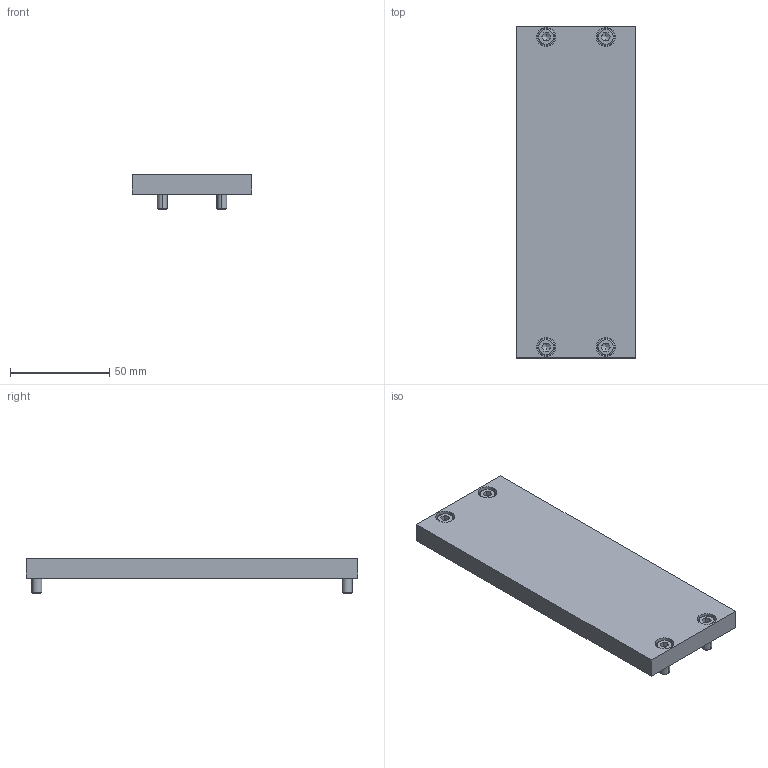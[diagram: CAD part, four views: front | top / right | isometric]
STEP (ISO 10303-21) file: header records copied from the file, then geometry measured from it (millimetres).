
FILE_DESCRIPTION((''),'2;1');
FILE_NAME('V:\CAD\Inventor-Stp\Linearelemente\Kugelbüchsenführungen\VE 25\Kopie von ivn\4000031.stp','2006-03-14T09:31:59',('is'),(''),'Autodesk Inventor 8','Autodesk Inventor 8','');
FILE_SCHEMA(('AUTOMOTIVE_DESIGN { 1 0 10303 214 1 1 1 1 }'));
Length unit declared in the file: millimetre
Products named in the file (1): 4000031
Bounding box: 60 x 167 x 17.8 mm (x, y, z)
Volume: 100053.8 mm3; surface area: 26961.6 mm2
Topology: 1 solids, 1 shells, 102 faces, 248 edges, 160 vertices
Faces by surface type: plane 42, bspline 20, cone 16, cylinder 16, torus 8
Entity records: 3163 total; most frequent: CARTESIAN_POINT 851, ORIENTED_EDGE 480, DIRECTION 474, EDGE_CURVE 240, AXIS2_PLACEMENT_3D 183, VERTEX_POINT 160, EDGE_LOOP 122, VECTOR 108
